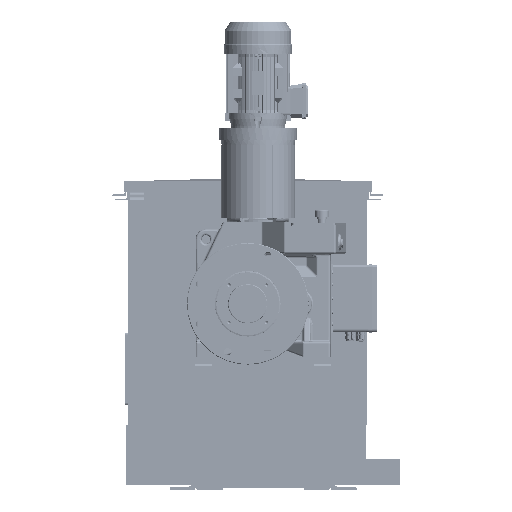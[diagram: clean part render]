
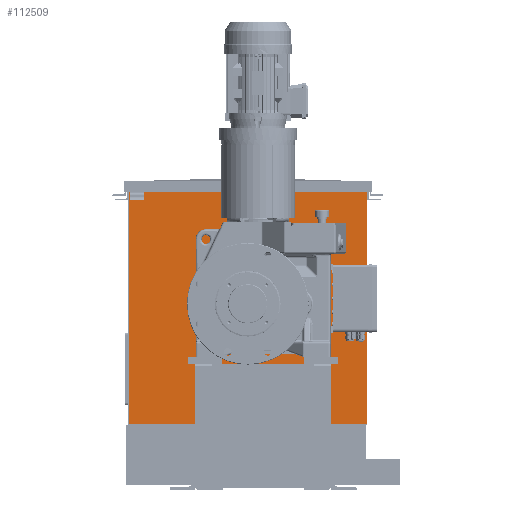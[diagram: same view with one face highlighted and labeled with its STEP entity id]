
A CAD part, front view. The second image highlights one B-rep face of the part: STEP entity #112509.
In plain terms, the highlighted planar face has unit normal (0, -1, 0).
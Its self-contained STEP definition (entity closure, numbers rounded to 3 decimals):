
#3662=FACE_BOUND('',#15628,.T.);
#3663=FACE_BOUND('',#15629,.T.);
#5104=PLANE('',#119266);
#9221=FACE_OUTER_BOUND('',#15627,.T.);
#15627=EDGE_LOOP('',(#75365,#75366,#75367,#75368));
#15628=EDGE_LOOP('',(#75369,#75370,#75371,#75372));
#15629=EDGE_LOOP('',(#75373));
#23206=LINE('',#163864,#33176);
#23207=LINE('',#163866,#33177);
#23208=LINE('',#163868,#33178);
#23209=LINE('',#163869,#33179);
#23210=LINE('',#163872,#33180);
#23211=LINE('',#163874,#33181);
#23212=LINE('',#163876,#33182);
#23213=LINE('',#163877,#33183);
#33176=VECTOR('',#130900,696.);
#33177=VECTOR('',#130901,699.);
#33178=VECTOR('',#130902,696.);
#33179=VECTOR('',#130903,699.);
#33180=VECTOR('',#130904,40.);
#33181=VECTOR('',#130905,40.);
#33182=VECTOR('',#130906,40.);
#33183=VECTOR('',#130907,40.);
#42850=CIRCLE('',#119239,127.);
#47028=VERTEX_POINT('',#163817);
#47042=VERTEX_POINT('',#163862);
#47043=VERTEX_POINT('',#163863);
#47044=VERTEX_POINT('',#163865);
#47045=VERTEX_POINT('',#163867);
#47046=VERTEX_POINT('',#163870);
#47047=VERTEX_POINT('',#163871);
#47048=VERTEX_POINT('',#163873);
#47049=VERTEX_POINT('',#163875);
#57968=EDGE_CURVE('',#47028,#47028,#42850,.T.);
#57987=EDGE_CURVE('',#47042,#47043,#23206,.T.);
#57988=EDGE_CURVE('',#47043,#47044,#23207,.T.);
#57989=EDGE_CURVE('',#47044,#47045,#23208,.T.);
#57990=EDGE_CURVE('',#47045,#47042,#23209,.T.);
#57991=EDGE_CURVE('',#47046,#47047,#23210,.T.);
#57992=EDGE_CURVE('',#47047,#47048,#23211,.T.);
#57993=EDGE_CURVE('',#47048,#47049,#23212,.T.);
#57994=EDGE_CURVE('',#47049,#47046,#23213,.T.);
#75365=ORIENTED_EDGE('',*,*,#57987,.T.);
#75366=ORIENTED_EDGE('',*,*,#57988,.T.);
#75367=ORIENTED_EDGE('',*,*,#57989,.T.);
#75368=ORIENTED_EDGE('',*,*,#57990,.T.);
#75369=ORIENTED_EDGE('',*,*,#57991,.T.);
#75370=ORIENTED_EDGE('',*,*,#57992,.T.);
#75371=ORIENTED_EDGE('',*,*,#57993,.T.);
#75372=ORIENTED_EDGE('',*,*,#57994,.T.);
#75373=ORIENTED_EDGE('',*,*,#57968,.T.);
#112509=ADVANCED_FACE('',(#9221,#3662,#3663),#5104,.F.);
#119239=AXIS2_PLACEMENT_3D('',#163818,#130841,#130842);
#119266=AXIS2_PLACEMENT_3D('',#163861,#130898,#130899);
#130841=DIRECTION('center_axis',(0.,1.,0.));
#130842=DIRECTION('ref_axis',(-1.,0.,0.));
#130898=DIRECTION('center_axis',(0.,1.,0.));
#130899=DIRECTION('ref_axis',(-1.,0.,0.));
#130900=DIRECTION('',(-1.,0.,0.));
#130901=DIRECTION('',(0.,0.,-1.));
#130902=DIRECTION('',(1.,0.,0.));
#130903=DIRECTION('',(0.,0.,1.));
#130904=DIRECTION('',(0.,0.,-1.));
#130905=DIRECTION('',(-1.,0.,0.));
#130906=DIRECTION('',(0.,0.,1.));
#130907=DIRECTION('',(1.,0.,0.));
#163817=CARTESIAN_POINT('',(-3337.623,-4804.995,-829.829));
#163818=CARTESIAN_POINT('Origin',(-3464.623,-4804.995,-829.829));
#163861=CARTESIAN_POINT('Origin',(-3464.623,-4804.995,-831.829));
#163862=CARTESIAN_POINT('',(-3116.623,-4804.995,-483.829));
#163863=CARTESIAN_POINT('',(-3812.623,-4804.995,-483.829));
#163864=CARTESIAN_POINT('',(-3290.623,-4804.995,-483.829));
#163865=CARTESIAN_POINT('',(-3812.623,-4804.995,-1182.829));
#163866=CARTESIAN_POINT('',(-3812.623,-4804.995,-481.829));
#163867=CARTESIAN_POINT('',(-3116.623,-4804.995,-1182.829));
#163868=CARTESIAN_POINT('',(-3812.623,-4804.995,-1182.829));
#163869=CARTESIAN_POINT('',(-3116.623,-4804.995,-1181.829));
#163870=CARTESIAN_POINT('',(-3769.623,-4804.995,-487.545));
#163871=CARTESIAN_POINT('',(-3769.623,-4804.995,-527.545));
#163872=CARTESIAN_POINT('',(-3769.623,-4804.995,-673.75));
#163873=CARTESIAN_POINT('',(-3809.623,-4804.995,-527.545));
#163874=CARTESIAN_POINT('',(-3627.123,-4804.995,-527.545));
#163875=CARTESIAN_POINT('',(-3809.623,-4804.995,-487.545));
#163876=CARTESIAN_POINT('',(-3809.623,-4804.995,-673.75));
#163877=CARTESIAN_POINT('',(-3627.123,-4804.995,-487.545));
